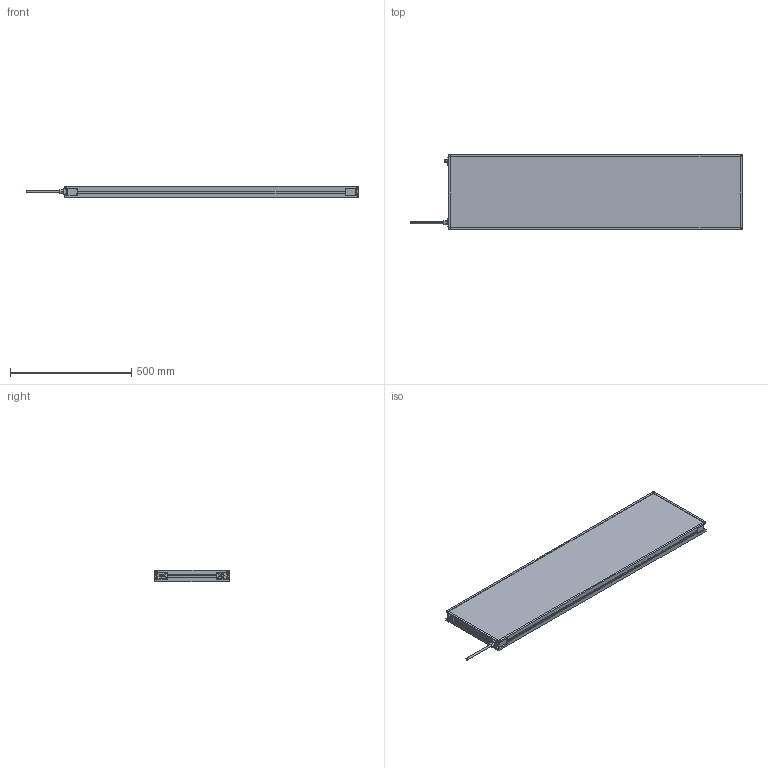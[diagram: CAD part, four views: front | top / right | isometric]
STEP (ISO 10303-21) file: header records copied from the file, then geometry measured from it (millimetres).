
FILE_DESCRIPTION (( 'STEP AP214' ), '1' );
FILE_NAME ('MBACK-xxxx-xxx-M1A2_CLIENT300x1200.STEP', '2022-04-01T11:32:13', ( '' ), ( '' ), 'SwSTEP 2.0', 'SolidWorks 2020', '' );
FILE_SCHEMA (( 'AUTOMOTIVE_DESIGN' ));
Length unit declared in the file: millimetre
Products named in the file (1): MBACK-xxxx-xxx-M1A2_CLIENT300x1200
Bounding box: 1367.4 x 308 x 45.5 mm (x, y, z)
Volume: 15457685.1 mm3; surface area: 951419.1 mm2
Topology: 1 solids, 1 shells, 470 faces, 1210 edges, 804 vertices
Faces by surface type: plane 265, cylinder 117, bspline 80, cone 8
Entity records: 18046 total; most frequent: CARTESIAN_POINT 6837, ORIENTED_EDGE 2420, DIRECTION 2082, EDGE_CURVE 1210, VERTEX_POINT 804, LINE 800, VECTOR 800, AXIS2_PLACEMENT_3D 641
